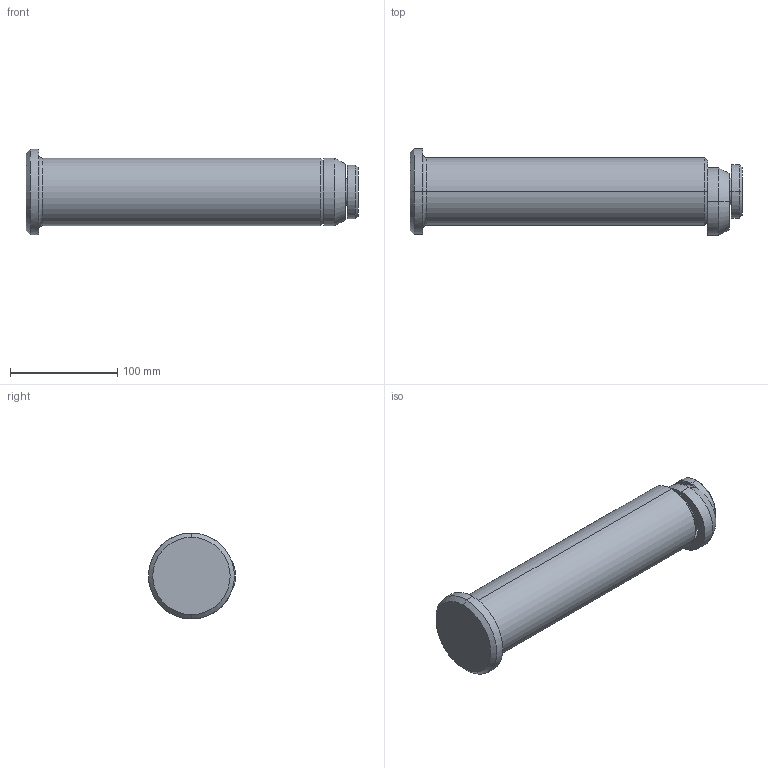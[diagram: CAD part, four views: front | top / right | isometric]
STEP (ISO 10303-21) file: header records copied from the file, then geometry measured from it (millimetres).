
FILE_DESCRIPTION(('CATIA V5 STEP Exchange'),'2;1');
FILE_NAME('C:\Users\Raffaele\Desktop\3D X SITO CF\PERNI -STAFFE SOLLEVAMENTO\395C\GSB_OILLESS_C10305063265\STEP-2.03\395C-063-265.stp','2019-07-03T07:37:23+00:00',('none'),('none'),'CATIA Version 5 Release 20 GA (IN-10)','CATIA V5 STEP AP203','none');
FILE_SCHEMA(('CONFIG_CONTROL_DESIGN'));
Length unit declared in the file: millimetre
Products named in the file (1): 395C-063-265
Assembly tree (3 placements, depth 2):
  395C-063-265
    #58
    #721
    #1098
Bounding box: 309 x 81 x 80 mm (x, y, z)
Volume: 941333.4 mm3; surface area: 80971.9 mm2
Topology: 3 solids, 3 shells, 34 faces, 106 edges, 80 vertices
Faces by surface type: cylinder 14, cone 10, plane 8, torus 2
Entity records: 1512 total; most frequent: CARTESIAN_POINT 466, ORIENTED_EDGE 212, DIRECTION 168, EDGE_CURVE 106, AXIS2_PLACEMENT_3D 104, VERTEX_POINT 80, CIRCLE 64, EDGE_LOOP 40
